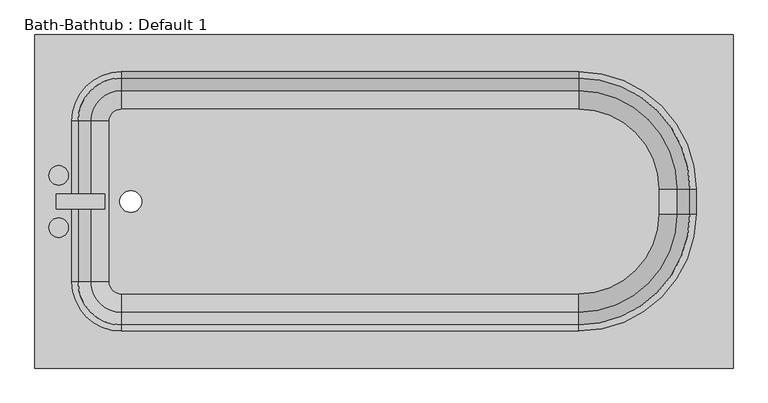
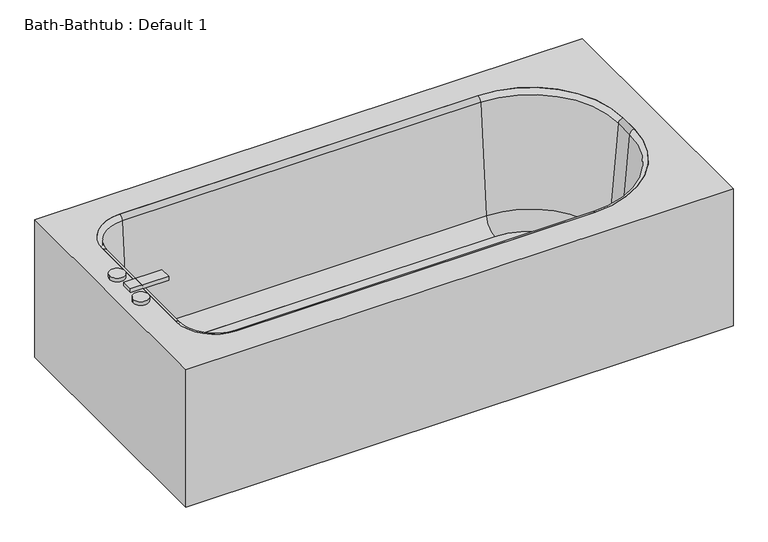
"""IFC4 building model written with IfcOpenShell, lengths in millimetres: flow terminal geometry, Bath-Bathtub : Default 1."""

from ifc_helpers import new_model, si_unit, point, frame, frame_2d, origin, place, context, project, spatial, polyline, circle_curve, ellipse_curve, trimmed, segment, composite_curve, outline, extrude, source, transform, mapped, element, save
from ifc_brep_helpers import plane_surface, cylinder_surface, revolved_surface, advanced_brep


def bath_bathtub_default_1_165bcc3d(model_context):
    return source(origin(), model_context, "Body", "SolidModel", [
        advanced_brep(
        [(324.4970313, -787.4, 380.0), (324.4970313, -101.6, 380.0), (-1110.6029687, -101.6, 380.0), (-1110.6029687, -787.4, 380.0), (-932.8029687, -711.2, 380.0), (-1034.4029687, -609.6, 380.0), (-1034.4029687, -279.4, 380.0), (-932.8029687, -177.8, 380.0), (6.9970313, -177.8, 380.0), (248.2970313, -419.1, 380.0), (248.2970313, -469.9, 380.0), (6.9970313, -711.2, 380.0), (305.4470313, -768.35, 360.95), (-1091.5529687, -768.35, 360.95), (-1091.5529687, -120.65, 360.95), (305.4470313, -120.65, 360.95), (-932.8029687, -711.2, 360.95), (6.9970313, -711.2, 360.95), (248.2970313, -469.9, 360.95), (248.2970313, -419.1, 360.95), (6.9970313, -177.8, 360.95), (-932.8029687, -177.8, 360.95), (-1034.4029687, -279.4, 360.95), (-1034.4029687, -609.6, 360.95), (-1110.6029687, -787.4, 0.0), (324.4970313, -787.4, 0.0), (-1110.6029687, -101.6, 0.0), (324.4970313, -101.6, 0.0), (305.4470313, -768.35, 0.0), (305.4470313, -120.65, 0.0), (-1091.5529687, -120.65, 0.0), (-1091.5529687, -768.35, 0.0)],
        [
            (0, 1),
            (1, 2),
            (2, 3),
            (3, 0),
            (4, 5, circle_curve(frame((-932.8029687, -609.6, 380.0), z_axis=(0.0, 0.0, -1.0), x_axis=(0.0, -1.0, 0.0)), 101.6)),
            (5, 6),
            (6, 7, circle_curve(frame((-932.8029687, -279.4, 380.0), z_axis=(0.0, 0.0, -1.0), x_axis=(0.0, -1.0, 0.0)), 101.6)),
            (7, 8),
            (8, 9, circle_curve(frame((6.9970313, -419.1, 380.0), z_axis=(0.0, 0.0, -1.0), x_axis=(0.0, -1.0, 0.0)), 241.3)),
            (9, 10),
            (10, 11, circle_curve(frame((6.9970313, -469.9, 380.0), z_axis=(0.0, 0.0, -1.0), x_axis=(0.0, -1.0, 0.0)), 241.3)),
            (11, 4),
            (12, 13),
            (13, 14),
            (14, 15),
            (15, 12),
            (16, 17),
            (17, 18, circle_curve(frame((6.9970313, -469.9, 360.95), z_axis=(0.0, 0.0, 1.0), x_axis=(0.0, -1.0, 0.0)), 241.3)),
            (18, 19),
            (19, 20, circle_curve(frame((6.9970313, -419.1, 360.95), z_axis=(0.0, 0.0, 1.0), x_axis=(0.0, -1.0, 0.0)), 241.3)),
            (20, 21),
            (21, 22, circle_curve(frame((-932.8029687, -279.4, 360.95), z_axis=(0.0, 0.0, 1.0), x_axis=(0.0, -1.0, 0.0)), 101.6)),
            (22, 23),
            (23, 16, circle_curve(frame((-932.8029687, -609.6, 360.95), z_axis=(0.0, 0.0, 1.0), x_axis=(0.0, -1.0, 0.0)), 101.6)),
            (3, 24),
            (24, 25),
            (25, 0),
            (2, 26),
            (26, 24),
            (1, 27),
            (27, 26),
            (25, 27),
            (11, 17),
            (16, 4),
            (10, 18),
            (9, 19),
            (8, 20),
            (7, 21),
            (6, 22),
            (5, 23),
            (28, 29),
            (29, 30),
            (30, 31),
            (31, 28),
            (28, 12),
            (15, 29),
            (14, 30),
            (13, 31),
        ],
        [
            plane_surface(frame((-1110.6029687, -787.4, 380.0), z_axis=(0.0, 0.0, 1.0), x_axis=(-1.0, 0.0, 0.0))),
            plane_surface(frame((-1110.6029687, -787.4, 360.95), z_axis=(0.0, 0.0, -1.0), x_axis=(1.0, 0.0, 0.0))),
            plane_surface(frame((324.4970313, -787.4, 380.0), z_axis=(0.0, -1.0, 0.0), x_axis=(0.0, 0.0, -1.0))),
            plane_surface(frame((-1110.6029687, -787.4, 380.0), z_axis=(-1.0, 0.0, 0.0), x_axis=(0.0, 0.0, -1.0))),
            plane_surface(frame((-1110.6029687, -101.6, 380.0), z_axis=(0.0, 1.0, 0.0), x_axis=(0.0, 0.0, -1.0))),
            plane_surface(frame((324.4970313, -101.6, 380.0), z_axis=(1.0, 0.0, 0.0), x_axis=(0.0, 0.0, -1.0))),
            plane_surface(frame((-932.8029687, -711.2, 380.0), z_axis=(0.0, 1.0, 0.0), x_axis=(0.0, 0.0, -1.0))),
            revolved_surface(polyline([(6.9970313, -711.2, 360.95), (6.9970313, -711.2, 380.0)]), (6.9970313, -469.9, 380.0), (0.0, 0.0, -1.0)),
            plane_surface(frame((248.2970313, -469.9, 380.0), z_axis=(-1.0, 0.0, 0.0), x_axis=(0.0, 0.0, -1.0))),
            revolved_surface(polyline([(6.9970313, -660.4000000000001, 360.95), (6.9970313, -660.4000000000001, 380.0)]), (6.9970313, -419.1, 380.0), (0.0, 0.0, -1.0)),
            plane_surface(frame((6.9970313, -177.8, 380.0), z_axis=(0.0, -1.0, 0.0), x_axis=(0.0, 0.0, -1.0))),
            revolved_surface(polyline([(-932.8029687, -381.0, 360.95), (-932.8029687, -381.0, 380.0)]), (-932.8029687, -279.4, 380.0), (0.0, 0.0, -1.0)),
            plane_surface(frame((-1034.4029687, -279.4, 380.0), z_axis=(1.0, 0.0, 0.0), x_axis=(0.0, 0.0, -1.0))),
            revolved_surface(polyline([(-932.8029687, -711.2, 360.95), (-932.8029687, -711.2, 380.0)]), (-932.8029687, -609.6, 380.0), (0.0, 0.0, -1.0)),
            plane_surface(frame((-1110.6029687, -787.4, 0.0), z_axis=(0.0, 0.0, -1.0), x_axis=(1.0, 0.0, 0.0))),
            plane_surface(frame((305.4470313, -768.35, 360.95), z_axis=(-1.0, 0.0, 0.0), x_axis=(0.0, 0.0, -1.0))),
            plane_surface(frame((305.4470313, -120.65, 360.95), z_axis=(0.0, -1.0, 0.0), x_axis=(0.0, 0.0, -1.0))),
            plane_surface(frame((-1091.5529687, -120.65, 360.95), z_axis=(1.0, 0.0, 0.0), x_axis=(0.0, 0.0, -1.0))),
            plane_surface(frame((-1091.5529687, -768.35, 360.95), z_axis=(0.0, 1.0, 0.0), x_axis=(0.0, 0.0, -1.0))),
        ],
        [
            (0, [[1, 2, 3, 4], [5, 6, 7, 8, 9, 10, 11, 12]]),
            (1, [[13, 14, 15, 16], [17, 18, 19, 20, 21, 22, 23, 24]]),
            (2, [[25, 26, 27, -4]]),
            (3, [[28, 29, -25, -3]]),
            (4, [[30, 31, -28, -2]]),
            (5, [[32, -30, -1, -27]]),
            (6, [[33, -17, 34, -12]]),
            (7, [[35, -18, -33, -11]]),
            (8, [[36, -19, -35, -10]]),
            (9, [[37, -20, -36, -9]]),
            (10, [[38, -21, -37, -8]]),
            (11, [[39, -22, -38, -7]]),
            (12, [[40, -23, -39, -6]]),
            (13, [[-34, -24, -40, -5]]),
            (14, [[-26, -29, -31, -32], [41, 42, 43, 44]]),
            (15, [[45, -16, 46, -41]]),
            (16, [[-46, -15, 47, -42]]),
            (17, [[-47, -14, 48, -43]]),
            (18, [[-48, -13, -45, -44]]),
        ],
    ),
        extrude(outline(composite_curve([segment(polyline([(6.9970313, -634.5964741), (-932.8029687, -634.5964741)]), True, "CONTINUOUS"), segment(trimmed(circle_curve(frame_2d((-932.8029687, -609.6)), 24.9964741), [point((-932.8029687, -634.5964741))], [point((-957.7994428, -609.6))], False, "CARTESIAN"), True, "CONTINUOUS"), segment(polyline([(-957.7994428, -609.6), (-957.7994428, -279.4)]), True, "CONTINUOUS"), segment(trimmed(circle_curve(frame_2d((-932.8029687, -279.4)), 24.9964741), [point((-957.7994428, -279.4))], [point((-932.8029687, -254.4035259))], False, "CARTESIAN"), True, "CONTINUOUS"), segment(polyline([(-932.8029687, -254.4035259), (6.9970313, -254.4035259)]), True, "CONTINUOUS"), segment(trimmed(circle_curve(frame_2d((6.9970313, -419.1)), 164.6964741), [point((6.9970313, -254.4035259))], [point((171.6935054, -419.1))], False, "CARTESIAN"), True, "CONTINUOUS"), segment(polyline([(171.6935054, -419.1), (171.6935054, -469.9)]), True, "CONTINUOUS"), segment(trimmed(circle_curve(frame_2d((6.9970313, -469.9)), 164.6964741), [point((171.6935054, -469.9))], [point((6.9970313, -634.5964741))], False, "CARTESIAN"), True, "CONTINUOUS")], self_intersect=False), holes=[composite_curve([segment(trimmed(circle_curve(frame_2d((-913.5971625, -444.5)), 22.225), [point((-913.5971625, -466.725))], [point((-913.5971625, -422.275))], True, "CARTESIAN"), True, "CONTINUOUS"), segment(trimmed(circle_curve(frame_2d((-913.5971625, -444.5)), 22.225), [point((-913.5971625, -422.275))], [point((-913.5971625, -466.725))], True, "CARTESIAN"), True, "CONTINUOUS")], self_intersect=False)]), frame((0.0, 0.0, 15.863573), z_axis=(0.0, 0.0, 1.0), x_axis=(1.0, 0.0, 0.0)), (0.0, 0.0, 1.0), 19.05),
        advanced_brep(
        [(-995.7544608, -609.6, 69.6929392), (-1021.9249722, -609.6, 368.8232535), (-932.8029687, -698.7220035, 368.8232535), (-932.8029687, -672.5514921, 69.6929392), (-957.7994428, -609.6, 34.913573), (-932.8029687, -634.5964741, 34.913573), (-957.7994428, -609.6, 15.863573), (-932.8029687, -634.5964741, 15.863573), (-1034.4029687, -609.6, 15.863573), (-932.8029687, -711.2, 15.863573), (-1034.4029687, -609.6, 380.0), (-932.8029687, -711.2, 380.0), (-995.7544608, -279.4, 69.6929392), (-1021.9249722, -279.4, 368.8232535), (-957.7994428, -279.4, 34.913573), (-957.7994428, -279.4, 15.863573), (-1034.4029687, -279.4, 15.863573), (-1034.4029687, -279.4, 380.0), (-932.8029687, -216.4485079, 69.6929392), (-932.8029687, -190.2779965, 368.8232535), (-932.8029687, -254.4035259, 34.913573), (-932.8029687, -254.4035259, 15.863573), (-932.8029687, -177.8, 15.863573), (-932.8029687, -177.8, 380.0), (6.9970313, -216.4485079, 69.6929392), (6.9970313, -190.2779965, 368.8232535), (6.9970313, -254.4035259, 34.913573), (6.9970313, -254.4035259, 15.863573), (6.9970313, -177.8, 15.863573), (6.9970313, -177.8, 380.0), (209.6485234, -419.1, 69.6929392), (235.8190348, -419.1, 368.8232535), (171.6935054, -419.1, 34.913573), (171.6935054, -419.1, 15.863573), (248.2970313, -419.1, 15.863573), (248.2970313, -419.1, 380.0), (209.6485234, -469.9, 69.6929392), (235.8190348, -469.9, 368.8232535), (171.6935054, -469.9, 34.913573), (171.6935054, -469.9, 15.863573), (248.2970313, -469.9, 15.863573), (248.2970313, -469.9, 380.0), (6.9970313, -672.5514921, 69.6929392), (6.9970313, -698.7220035, 368.8232535), (6.9970313, -634.5964741, 34.913573), (6.9970313, -634.5964741, 15.863573), (6.9970313, -711.2, 15.863573), (6.9970313, -711.2, 380.0)],
        [
            (0, 1),
            (1, 2, circle_curve(frame((-932.8029687, -609.6, 368.8232535), z_axis=(0.0, 0.0, 1.0), x_axis=(0.0, -1.0, 0.0)), 89.1220035)),
            (2, 3),
            (3, 0, circle_curve(frame((-932.8029687, -609.6, 69.6929392), z_axis=(0.0, 0.0, -1.0), x_axis=(0.0, -1.0, 0.0)), 62.9514921)),
            (4, 0, circle_curve(frame((-957.7994428, -609.6, 73.013573), z_axis=(0.0, 1.0, 0.0), x_axis=(1.0, 0.0, 0.0)), 38.1)),
            (3, 5, circle_curve(frame((-932.8029687, -634.5964741, 73.013573), z_axis=(1.0, 0.0, 0.0), x_axis=(0.0, 1.0, 0.0)), 38.1)),
            (5, 4, circle_curve(frame((-932.8029687, -609.6, 34.913573), z_axis=(0.0, 0.0, -1.0), x_axis=(0.0, -1.0, 0.0)), 24.9964741)),
            (6, 4),
            (5, 7),
            (7, 6, circle_curve(frame((-932.8029687, -609.6, 15.863573), z_axis=(0.0, 0.0, -1.0), x_axis=(0.0, -1.0, 0.0)), 24.9964741)),
            (8, 6),
            (7, 9),
            (9, 8, circle_curve(frame((-932.8029687, -609.6, 15.863573), z_axis=(0.0, 0.0, -1.0), x_axis=(0.0, -1.0, 0.0)), 101.6)),
            (10, 8),
            (9, 11),
            (11, 10, circle_curve(frame((-932.8029687, -609.6, 380.0), z_axis=(0.0, 0.0, -1.0), x_axis=(0.0, -1.0, 0.0)), 101.6)),
            (1, 10, circle_curve(frame((-1034.4029687, -609.6, 367.4462547), z_axis=(0.0, -1.0, 0.0), x_axis=(1.0, 0.0, 0.0)), 12.5537453)),
            (11, 2, circle_curve(frame((-932.8029687, -711.2, 367.4462547), z_axis=(-1.0, 0.0, 0.0), x_axis=(0.0, 1.0, 0.0)), 12.5537453)),
            (0, 12),
            (12, 13),
            (13, 1),
            (4, 14),
            (14, 12, circle_curve(frame((-957.7994428, -279.4, 73.013573), z_axis=(0.0, 1.0, 0.0), x_axis=(1.0, 0.0, 0.0)), 38.1)),
            (6, 15),
            (15, 14),
            (8, 16),
            (16, 15),
            (10, 17),
            (17, 16),
            (13, 17, circle_curve(frame((-1034.4029687, -279.4, 367.4462547), z_axis=(0.0, -1.0, 0.0), x_axis=(1.0, 0.0, 0.0)), 12.5537453)),
            (18, 19),
            (19, 13, circle_curve(frame((-932.8029687, -279.4, 368.8232535), z_axis=(0.0, 0.0, 1.0), x_axis=(-1.0, 0.0, 0.0)), 89.1220035)),
            (12, 18, circle_curve(frame((-932.8029687, -279.4, 69.6929392), z_axis=(0.0, 0.0, -1.0), x_axis=(-1.0, 0.0, 0.0)), 62.9514921)),
            (20, 18, circle_curve(frame((-932.8029687, -254.4035259, 73.013573), z_axis=(1.0, 0.0, 0.0), x_axis=(0.0, -1.0, 0.0)), 38.1)),
            (14, 20, circle_curve(frame((-932.8029687, -279.4, 34.913573), z_axis=(0.0, 0.0, -1.0), x_axis=(-1.0, 0.0, 0.0)), 24.9964741)),
            (21, 20),
            (15, 21, circle_curve(frame((-932.8029687, -279.4, 15.863573), z_axis=(0.0, 0.0, -1.0), x_axis=(-1.0, 0.0, 0.0)), 24.9964741)),
            (22, 21),
            (16, 22, circle_curve(frame((-932.8029687, -279.4, 15.863573), z_axis=(0.0, 0.0, -1.0), x_axis=(-1.0, 0.0, 0.0)), 101.6)),
            (23, 22),
            (17, 23, circle_curve(frame((-932.8029687, -279.4, 380.0), z_axis=(0.0, 0.0, -1.0), x_axis=(-1.0, 0.0, 0.0)), 101.6)),
            (19, 23, circle_curve(frame((-932.8029687, -177.8, 367.4462547), z_axis=(-1.0, 0.0, 0.0), x_axis=(0.0, -1.0, 0.0)), 12.5537453)),
            (18, 24),
            (24, 25),
            (25, 19),
            (20, 26),
            (26, 24, circle_curve(frame((6.9970313, -254.4035259, 73.013573), z_axis=(1.0, 0.0, 0.0), x_axis=(0.0, -1.0, 0.0)), 38.1)),
            (21, 27),
            (27, 26),
            (22, 28),
            (28, 27),
            (23, 29),
            (29, 28),
            (25, 29, circle_curve(frame((6.9970313, -177.8, 367.4462547), z_axis=(-1.0, 0.0, 0.0), x_axis=(0.0, -1.0, 0.0)), 12.5537453)),
            (30, 31),
            (31, 25, circle_curve(frame((6.9970313, -419.1, 368.8232535), z_axis=(0.0, 0.0, 1.0), x_axis=(0.0, 1.0, 0.0)), 228.8220035)),
            (24, 30, circle_curve(frame((6.9970313, -419.1, 69.6929392), z_axis=(0.0, 0.0, -1.0), x_axis=(0.0, 1.0, 0.0)), 202.6514921)),
            (32, 30, circle_curve(frame((171.6935054, -419.1, 73.013573), z_axis=(0.0, -1.0, 0.0), x_axis=(-1.0, 0.0, 0.0)), 38.1)),
            (26, 32, circle_curve(frame((6.9970313, -419.1, 34.913573), z_axis=(0.0, 0.0, -1.0), x_axis=(0.0, 1.0, 0.0)), 164.6964741)),
            (33, 32),
            (27, 33, circle_curve(frame((6.9970313, -419.1, 15.863573), z_axis=(0.0, 0.0, -1.0), x_axis=(0.0, 1.0, 0.0)), 164.6964741)),
            (34, 33),
            (28, 34, circle_curve(frame((6.9970313, -419.1, 15.863573), z_axis=(0.0, 0.0, -1.0), x_axis=(0.0, 1.0, 0.0)), 241.3)),
            (35, 34),
            (29, 35, circle_curve(frame((6.9970313, -419.1, 380.0), z_axis=(0.0, 0.0, -1.0), x_axis=(0.0, 1.0, 0.0)), 241.3)),
            (31, 35, circle_curve(frame((248.2970313, -419.1, 367.4462547), z_axis=(0.0, 1.0, 0.0), x_axis=(-1.0, 0.0, 0.0)), 12.5537453)),
            (30, 36),
            (36, 37),
            (37, 31),
            (32, 38),
            (38, 36, circle_curve(frame((171.6935054, -469.9, 73.013573), z_axis=(0.0, -1.0, 0.0), x_axis=(-1.0, 0.0, 0.0)), 38.1)),
            (33, 39),
            (39, 38),
            (34, 40),
            (40, 39),
            (35, 41),
            (41, 40),
            (37, 41, circle_curve(frame((248.2970313, -469.9, 367.4462547), z_axis=(0.0, 1.0, 0.0), x_axis=(-1.0, 0.0, 0.0)), 12.5537453)),
            (42, 43),
            (43, 37, circle_curve(frame((6.9970313, -469.9, 368.8232535), z_axis=(0.0, 0.0, 1.0), x_axis=(1.0, 0.0, 0.0)), 228.8220035)),
            (36, 42, circle_curve(frame((6.9970313, -469.9, 69.6929392), z_axis=(0.0, 0.0, -1.0), x_axis=(1.0, 0.0, 0.0)), 202.6514921)),
            (44, 42, circle_curve(frame((6.9970313, -634.5964741, 73.013573), z_axis=(-1.0, 0.0, 0.0), x_axis=(0.0, 1.0, 0.0)), 38.1)),
            (38, 44, circle_curve(frame((6.9970313, -469.9, 34.913573), z_axis=(0.0, 0.0, -1.0), x_axis=(1.0, 0.0, 0.0)), 164.6964741)),
            (45, 44),
            (39, 45, circle_curve(frame((6.9970313, -469.9, 15.863573), z_axis=(0.0, 0.0, -1.0), x_axis=(1.0, 0.0, 0.0)), 164.6964741)),
            (46, 45),
            (40, 46, circle_curve(frame((6.9970313, -469.9, 15.863573), z_axis=(0.0, 0.0, -1.0), x_axis=(1.0, 0.0, 0.0)), 241.3)),
            (47, 46),
            (41, 47, circle_curve(frame((6.9970313, -469.9, 380.0), z_axis=(0.0, 0.0, -1.0), x_axis=(1.0, 0.0, 0.0)), 241.3)),
            (43, 47, circle_curve(frame((6.9970313, -711.2, 367.4462547), z_axis=(1.0, 0.0, 0.0), x_axis=(0.0, 1.0, 0.0)), 12.5537453)),
            (42, 3),
            (2, 43),
            (44, 5),
            (45, 7),
            (46, 9),
            (47, 11),
        ],
        [
            revolved_surface(polyline([(-932.8029687, -698.7220035, 368.8232535), (-932.8029687, -672.5514921, 69.6929392)]), (-932.8029687, -609.6, 380.0), (0.0, 0.0, 1.0)),
            revolved_surface(trimmed(ellipse_curve(frame((-932.8029687, -634.5964741, 73.013573), z_axis=(1.0, 0.0, 0.0), x_axis=(0.0, 1.0, 0.0)), 38.1, 38.1), [point((-932.8029687, -672.5514921, 69.6929392))], [point((-932.8029687, -634.5964741, 34.913573))], True, "CARTESIAN"), (-932.8029687, -609.6, 380.0), (0.0, 0.0, 1.0)),
            revolved_surface(polyline([(-932.8029687, -634.5964741, 34.913572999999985), (-932.8029687, -634.5964741, 15.863572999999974)]), (-932.8029687, -609.6, 380.0), (0.0, 0.0, 1.0)),
            plane_surface(frame((-932.8029687, -609.6, 15.863573), z_axis=(0.0, 0.0, -1.0), x_axis=(0.0, -1.0, 0.0))),
            cylinder_surface(frame((-932.8029687, -609.6, 380.0), z_axis=(0.0, 0.0, 1.0), x_axis=(0.0, -1.0, 0.0)), 101.6),
            revolved_surface(trimmed(ellipse_curve(frame((-932.8029687, -711.2, 367.4462547), z_axis=(-1.0, 0.0, 0.0), x_axis=(0.0, 1.0, 0.0)), 12.5537453, 12.5537453), [point((-932.8029687, -711.2, 380.0))], [point((-932.8029687, -698.7220035, 368.8232535))], True, "CARTESIAN"), (-932.8029687, -609.6, 380.0), (0.0, 0.0, 1.0)),
            plane_surface(frame((-1021.9249722, -609.6, 368.8232535), z_axis=(0.9961946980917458, 0.0, 0.08715574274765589), x_axis=(0.0, 1.0, 0.0))),
            revolved_surface(polyline([(-919.6994427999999, -279.4, 73.013573), (-919.6994427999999, -609.6, 73.013573)]), (-957.7994428, -609.6, 73.013573), (0.0, 1.0, 0.0)),
            plane_surface(frame((-957.7994428, -609.6, 34.913573), z_axis=(1.0, 0.0, 0.0), x_axis=(0.0, 1.0, 0.0))),
            plane_surface(frame((-957.7994428, -609.6, 15.863573), z_axis=(0.0, 0.0, -1.0), x_axis=(0.0, 1.0, 0.0))),
            plane_surface(frame((-1034.4029687, -609.6, 15.863573), z_axis=(-1.0, 0.0, 0.0), x_axis=(0.0, 1.0, 0.0))),
            cylinder_surface(frame((-1034.4029687, -609.6, 367.4462547), z_axis=(0.0, -1.0, 0.0), x_axis=(1.0, 0.0, 0.0)), 12.5537453),
            revolved_surface(polyline([(-1021.9249722, -279.4, 368.8232535), (-995.7544608, -279.4, 69.6929392)]), (-932.8029687, -279.4, 380.0), (0.0, 0.0, 1.0)),
            revolved_surface(trimmed(ellipse_curve(frame((-957.7994428, -279.4, 73.013573), z_axis=(0.0, -1.0, 0.0), x_axis=(1.0, 0.0, 0.0)), 38.1, 38.1), [point((-995.7544608, -279.4, 69.6929392))], [point((-957.7994428, -279.4, 34.913573))], True, "CARTESIAN"), (-932.8029687, -279.4, 380.0), (0.0, 0.0, 1.0)),
            revolved_surface(polyline([(-957.7994428, -279.4, 34.913572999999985), (-957.7994428, -279.4, 15.863572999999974)]), (-932.8029687, -279.4, 380.0), (0.0, 0.0, 1.0)),
            plane_surface(frame((-932.8029687, -279.4, 15.863573), z_axis=(0.0, 0.0, -1.0), x_axis=(-1.0, 0.0, 0.0))),
            cylinder_surface(frame((-932.8029687, -279.4, 380.0), z_axis=(0.0, 0.0, 1.0), x_axis=(-1.0, 0.0, 0.0)), 101.6),
            revolved_surface(trimmed(ellipse_curve(frame((-1034.4029687, -279.4, 367.4462547), z_axis=(0.0, 1.0, 0.0), x_axis=(1.0, 0.0, 0.0)), 12.5537453, 12.5537453), [point((-1034.4029687, -279.4, 380.0))], [point((-1021.9249722, -279.4, 368.8232535))], True, "CARTESIAN"), (-932.8029687, -279.4, 380.0), (0.0, 0.0, 1.0)),
            plane_surface(frame((-932.8029687, -190.2779965, 368.8232535), z_axis=(0.0, -0.9961946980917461, 0.08715574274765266), x_axis=(1.0, 0.0, 0.0))),
            revolved_surface(polyline([(6.997031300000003, -292.5035259, 73.013573), (-932.8029687, -292.5035259, 73.013573)]), (-932.8029687, -254.4035259, 73.013573), (1.0, 0.0, 0.0)),
            plane_surface(frame((-932.8029687, -254.4035259, 34.913573), z_axis=(0.0, -1.0, 0.0), x_axis=(1.0, 0.0, 0.0))),
            plane_surface(frame((-932.8029687, -254.4035259, 15.863573), z_axis=(0.0, 0.0, -1.0), x_axis=(1.0, 0.0, 0.0))),
            plane_surface(frame((-932.8029687, -177.8, 15.863573), z_axis=(0.0, 1.0, 0.0), x_axis=(1.0, 0.0, 0.0))),
            cylinder_surface(frame((-932.8029687, -177.8, 367.4462547), z_axis=(-1.0, 0.0, 0.0), x_axis=(0.0, -1.0, 0.0)), 12.5537453),
            revolved_surface(polyline([(6.9970313, -190.2779965, 368.8232535), (6.9970313, -216.4485079, 69.6929392)]), (6.9970313, -419.1, 380.0), (0.0, 0.0, 1.0)),
            revolved_surface(trimmed(ellipse_curve(frame((6.9970313, -254.4035259, 73.013573), z_axis=(-1.0, 0.0, 0.0), x_axis=(0.0, -1.0, 0.0)), 38.1, 38.1), [point((6.9970313, -216.4485079, 69.6929392))], [point((6.9970313, -254.4035259, 34.913573))], True, "CARTESIAN"), (6.9970313, -419.1, 380.0), (0.0, 0.0, 1.0)),
            revolved_surface(polyline([(6.9970313, -254.40352590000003, 34.913572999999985), (6.9970313, -254.40352590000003, 15.863572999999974)]), (6.9970313, -419.1, 380.0), (0.0, 0.0, 1.0)),
            plane_surface(frame((6.9970313, -419.1, 15.863573), z_axis=(0.0, 0.0, -1.0), x_axis=(0.0, 1.0, 0.0))),
            cylinder_surface(frame((6.9970313, -419.1, 380.0), z_axis=(0.0, 0.0, 1.0), x_axis=(0.0, 1.0, 0.0)), 241.3),
            revolved_surface(trimmed(ellipse_curve(frame((6.9970313, -177.8, 367.4462547), z_axis=(1.0, 0.0, 0.0), x_axis=(0.0, -1.0, 0.0)), 12.5537453, 12.5537453), [point((6.9970313, -177.8, 380.0))], [point((6.9970313, -190.2779965, 368.8232535))], True, "CARTESIAN"), (6.9970313, -419.1, 380.0), (0.0, 0.0, 1.0)),
            plane_surface(frame((235.8190348, -419.1, 368.8232535), z_axis=(-0.9961946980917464, 0.0, 0.08715574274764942), x_axis=(0.0, -1.0, 0.0))),
            revolved_surface(polyline([(133.5935054, -469.9, 73.013573), (133.5935054, -419.1, 73.013573)]), (171.6935054, -419.1, 73.013573), (0.0, -1.0, 0.0)),
            plane_surface(frame((171.6935054, -419.1, 34.913573), z_axis=(-1.0, 0.0, 0.0), x_axis=(0.0, -1.0, 0.0))),
            plane_surface(frame((171.6935054, -419.1, 15.863573), z_axis=(0.0, 0.0, -1.0), x_axis=(0.0, -1.0, 0.0))),
            plane_surface(frame((248.2970313, -419.1, 15.863573), z_axis=(1.0, 0.0, 0.0), x_axis=(0.0, -1.0, 0.0))),
            cylinder_surface(frame((248.2970313, -419.1, 367.4462547), z_axis=(0.0, 1.0, 0.0), x_axis=(-1.0, 0.0, 0.0)), 12.5537453),
            revolved_surface(polyline([(235.8190348, -469.9, 368.8232535), (209.6485234, -469.9, 69.6929392)]), (6.9970313, -469.9, 380.0), (0.0, 0.0, 1.0)),
            revolved_surface(trimmed(ellipse_curve(frame((171.6935054, -469.9, 73.013573), z_axis=(0.0, 1.0, 0.0), x_axis=(-1.0, 0.0, 0.0)), 38.1, 38.1), [point((209.6485234, -469.9, 69.6929392))], [point((171.6935054, -469.9, 34.913573))], True, "CARTESIAN"), (6.9970313, -469.9, 380.0), (0.0, 0.0, 1.0)),
            revolved_surface(polyline([(171.6935054, -469.9, 34.913572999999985), (171.6935054, -469.9, 15.863572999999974)]), (6.9970313, -469.9, 380.0), (0.0, 0.0, 1.0)),
            plane_surface(frame((6.9970313, -469.9, 15.863573), z_axis=(0.0, 0.0, -1.0), x_axis=(1.0, 0.0, 0.0))),
            cylinder_surface(frame((6.9970313, -469.9, 380.0), z_axis=(0.0, 0.0, 1.0), x_axis=(1.0, 0.0, 0.0)), 241.3),
            revolved_surface(trimmed(ellipse_curve(frame((248.2970313, -469.9, 367.4462547), z_axis=(0.0, -1.0, 0.0), x_axis=(-1.0, 0.0, 0.0)), 12.5537453, 12.5537453), [point((248.2970313, -469.9, 380.0))], [point((235.8190348, -469.9, 368.8232535))], True, "CARTESIAN"), (6.9970313, -469.9, 380.0), (0.0, 0.0, 1.0)),
            plane_surface(frame((6.9970313, -698.7220035, 368.8232535), z_axis=(0.0, 0.9961946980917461, 0.08715574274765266), x_axis=(-1.0, 0.0, 0.0))),
            revolved_surface(polyline([(-932.8029687, -596.4964741, 73.013573), (6.9970313, -596.4964741, 73.013573)]), (6.9970313, -634.5964741, 73.013573), (-1.0, 0.0, 0.0)),
            plane_surface(frame((6.9970313, -634.5964741, 34.913573), z_axis=(0.0, 1.0, 0.0), x_axis=(-1.0, 0.0, 0.0))),
            plane_surface(frame((6.9970313, -634.5964741, 15.863573), z_axis=(0.0, 0.0, -1.0), x_axis=(-1.0, 0.0, 0.0))),
            plane_surface(frame((6.9970313, -711.2, 15.863573), z_axis=(0.0, -1.0, 0.0), x_axis=(-1.0, 0.0, 0.0))),
            cylinder_surface(frame((6.9970313, -711.2, 367.4462547), z_axis=(1.0, 0.0, 0.0), x_axis=(0.0, 1.0, 0.0)), 12.5537453),
        ],
        [
            (0, [[1, 2, 3, 4]]),
            (1, [[5, -4, 6, 7]]),
            (2, [[8, -7, 9, 10]]),
            (3, [[11, -10, 12, 13]]),
            (4, [[14, -13, 15, 16]]),
            (5, [[17, -16, 18, -2]]),
            (6, [[19, 20, 21, -1]]),
            (7, [[22, 23, -19, -5]]),
            (8, [[24, 25, -22, -8]]),
            (9, [[26, 27, -24, -11]]),
            (10, [[28, 29, -26, -14]]),
            (11, [[-21, 30, -28, -17]]),
            (12, [[31, 32, -20, 33]]),
            (13, [[34, -33, -23, 35]]),
            (14, [[36, -35, -25, 37]]),
            (15, [[38, -37, -27, 39]]),
            (16, [[40, -39, -29, 41]]),
            (17, [[42, -41, -30, -32]]),
            (18, [[43, 44, 45, -31]]),
            (19, [[46, 47, -43, -34]]),
            (20, [[48, 49, -46, -36]]),
            (21, [[50, 51, -48, -38]]),
            (22, [[52, 53, -50, -40]]),
            (23, [[-45, 54, -52, -42]]),
            (24, [[55, 56, -44, 57]]),
            (25, [[58, -57, -47, 59]]),
            (26, [[60, -59, -49, 61]]),
            (27, [[62, -61, -51, 63]]),
            (28, [[64, -63, -53, 65]]),
            (29, [[66, -65, -54, -56]]),
            (30, [[67, 68, 69, -55]]),
            (31, [[70, 71, -67, -58]]),
            (32, [[72, 73, -70, -60]]),
            (33, [[74, 75, -72, -62]]),
            (34, [[76, 77, -74, -64]]),
            (35, [[-69, 78, -76, -66]]),
            (36, [[79, 80, -68, 81]]),
            (37, [[82, -81, -71, 83]]),
            (38, [[84, -83, -73, 85]]),
            (39, [[86, -85, -75, 87]]),
            (40, [[88, -87, -77, 89]]),
            (41, [[90, -89, -78, -80]]),
            (42, [[91, -3, 92, -79]]),
            (43, [[93, -6, -91, -82]]),
            (44, [[94, -9, -93, -84]]),
            (45, [[95, -12, -94, -86]]),
            (46, [[96, -15, -95, -88]]),
            (47, [[-92, -18, -96, -90]]),
        ],
    ),
        extrude(outline(polyline([(-1066.8328759, -459.5), (-1066.8328759, -429.5), (-966.8328759, -429.5), (-966.8328759, -459.5), (-1066.8328759, -459.5)])), frame((0.0, 0.0, 380.0), z_axis=(0.0, 0.0, 1.0), x_axis=(1.0, 0.0, 0.0)), (0.0, 0.0, 1.0), 10.6738596),
        extrude(outline(composite_curve([segment(trimmed(circle_curve(frame_2d((-1061.8660369, -498.1947376)), 20.0), [point((-1041.8660369, -498.1947376))], [point((-1081.8660369, -498.1947376))], False, "CARTESIAN"), True, "CONTINUOUS"), segment(trimmed(circle_curve(frame_2d((-1061.8660369, -498.1947376)), 20.0), [point((-1081.8660369, -498.1947376))], [point((-1041.8660369, -498.1947376))], False, "CARTESIAN"), True, "CONTINUOUS")], self_intersect=False)), frame((0.0, 0.0, 380.0), z_axis=(0.0, 0.0, 1.0), x_axis=(1.0, 0.0, 0.0)), (0.0, 0.0, 1.0), 10.6738596),
        extrude(outline(composite_curve([segment(trimmed(circle_curve(frame_2d((-1061.8660369, -390.8052624)), 20.0), [point((-1041.8660369, -390.8052624))], [point((-1081.8660369, -390.8052624))], False, "CARTESIAN"), True, "CONTINUOUS"), segment(trimmed(circle_curve(frame_2d((-1061.8660369, -390.8052624)), 20.0), [point((-1081.8660369, -390.8052624))], [point((-1041.8660369, -390.8052624))], False, "CARTESIAN"), True, "CONTINUOUS")], self_intersect=False)), frame((0.0, 0.0, 380.0), z_axis=(0.0, 0.0, 1.0), x_axis=(1.0, 0.0, 0.0)), (0.0, 0.0, 1.0), 10.6738596),
    ])


if __name__ == "__main__":
    model = new_model("IFC4")
    model_context = context("Model", 3, world=origin())
    ifc_project = project(units=[si_unit("LENGTHUNIT", "METRE", prefix="MILLI")], contexts=[model_context])
    site = spatial("IfcSite", under=ifc_project)
    building = spatial("IfcBuilding", under=site)
    placement = place(None, origin())
    bath_bathtub_default_1_shape = bath_bathtub_default_1_165bcc3d(model_context)
    element("IfcFlowTerminal", 1, ObjectType="Bath-Bathtub : Default 1", at=placement, inside=building, context=model_context, shape_type="MappedRepresentation", body=[
        mapped(bath_bathtub_default_1_shape, transform((0.0, 0.0, 0.0), x_axis=(1.0, 0.0, 0.0), y_axis=(0.0, 1.0, 0.0), z_axis=(0.0, 0.0, 1.0))),
    ])
    save(model, "model.ifc")
